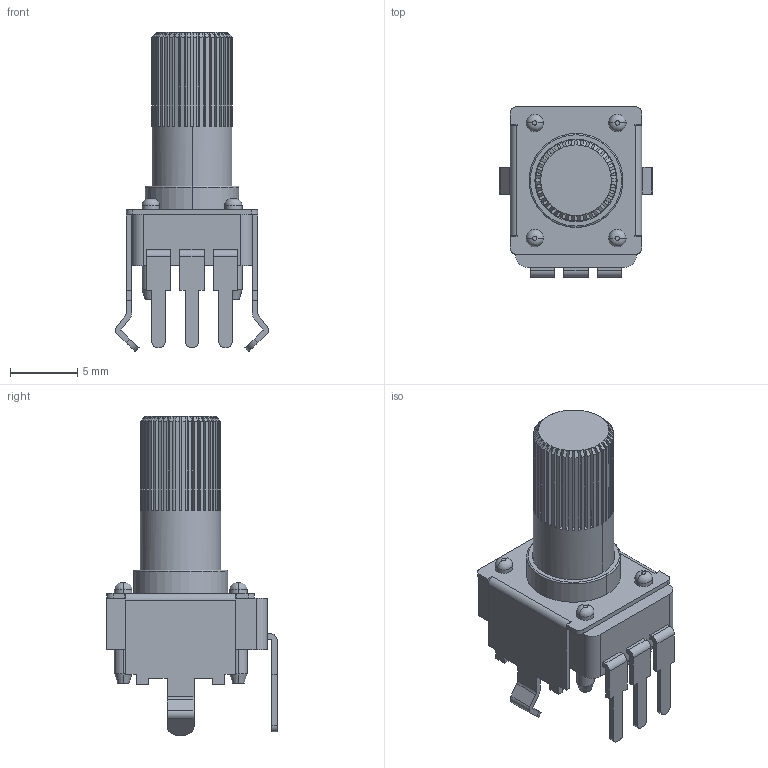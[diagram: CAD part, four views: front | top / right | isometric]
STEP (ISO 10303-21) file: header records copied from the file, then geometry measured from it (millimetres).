
FILE_DESCRIPTION (( 'STEP AP214' ), '1' );
FILE_NAME ('RV09AF-40-20K-A1M.STEP', '2025-01-06T07:49:04', ( '' ), ( '' ), 'SwSTEP 2.0', 'SolidWorks 2020', '' );
FILE_SCHEMA (( 'AUTOMOTIVE_DESIGN' ));
Length unit declared in the file: millimetre
Products named in the file (1): RV09AF-40-20K-A1M
Bounding box: 11.4 x 12.7 x 23.8 mm (x, y, z)
Volume: 893.7 mm3; surface area: 1277.1 mm2
Topology: 1 solids, 1 shells, 350 faces, 974 edges, 640 vertices
Faces by surface type: plane 276, cylinder 54, cone 10, torus 10
Entity records: 12806 total; most frequent: CARTESIAN_POINT 2331, ORIENTED_EDGE 1948, DIRECTION 1774, EDGE_CURVE 974, VERTEX_POINT 640, LINE 632, VECTOR 632, AXIS2_PLACEMENT_3D 571
